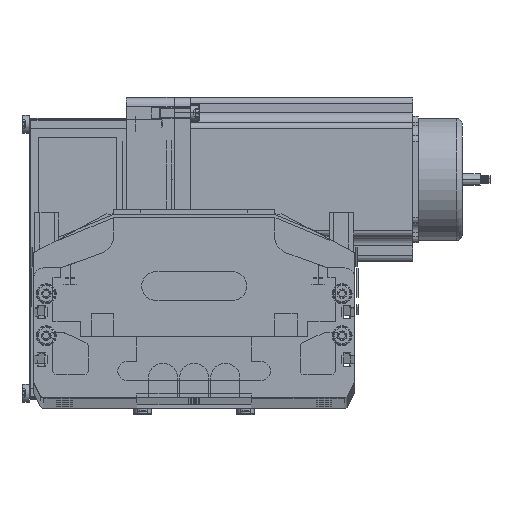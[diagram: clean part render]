
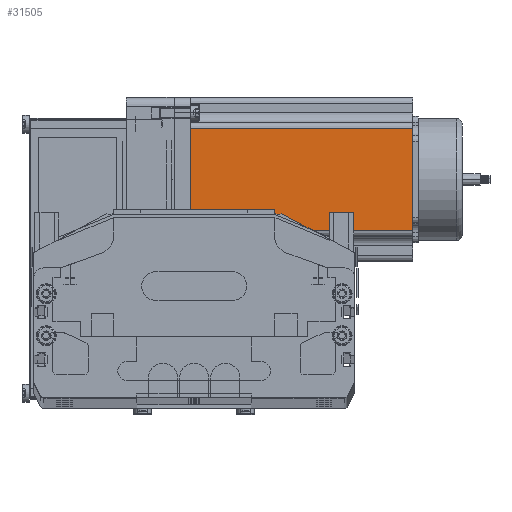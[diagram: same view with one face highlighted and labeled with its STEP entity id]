
A CAD part, top view. The second image highlights one B-rep face of the part: STEP entity #31505.
In plain terms, the highlighted planar face has unit normal (0, 0, 1) as drawn and (0, -1, 0) by its records, which use the part's own axes.
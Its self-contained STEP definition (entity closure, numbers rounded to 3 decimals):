
#31498 = EDGE_CURVE ( 'NONE', #31511, #31706, #50403, .T. ) ;
#31499 = VERTEX_POINT ( 'NONE', #50632 ) ;
#31501 = VERTEX_POINT ( 'NONE', #50407 ) ;
#31505 = ADVANCED_FACE ( 'NONE', ( #50397 ), #50604, .F. ) ;
#31506 = ORIENTED_EDGE ( 'NONE', *, *, #31509, .T. ) ;
#31508 = ORIENTED_EDGE ( 'NONE', *, *, #31510, .T. ) ;
#31509 = EDGE_CURVE ( 'NONE', #31499, #31501, #50594, .T. ) ;
#31510 = EDGE_CURVE ( 'NONE', #31706, #31499, #50595, .T. ) ;
#31511 = VERTEX_POINT ( 'NONE', #50608 ) ;
#31514 = EDGE_CURVE ( 'NONE', #31511, #31501, #50589, .T. ) ;
#31518 = ORIENTED_EDGE ( 'NONE', *, *, #31514, .F. ) ;
#31706 = VERTEX_POINT ( 'NONE', #52051 ) ;
#31707 = EDGE_LOOP ( 'NONE', ( #31508, #31506, #31518, #31729 ) ) ;
#31729 = ORIENTED_EDGE ( 'NONE', *, *, #31498, .T. ) ;
#50397 = FACE_OUTER_BOUND ( 'NONE', #31707, .T. ) ;
#50398 = DIRECTION ( 'NONE',  ( 0., 0., -1. ) ) ;
#50399 = VECTOR ( 'NONE', #50398, 1000. ) ;
#50400 = CARTESIAN_POINT ( 'NONE',  ( 16.16, 0., 116.5 ) ) ;
#50403 = LINE ( 'NONE', #50400, #50399 ) ;
#50407 = CARTESIAN_POINT ( 'NONE',  ( 69.74, 0., 116.5 ) ) ;
#50502 = DIRECTION ( 'NONE',  ( 1., 0., 0. ) ) ;
#50503 = VECTOR ( 'NONE', #50502, 1000. ) ;
#50504 = CARTESIAN_POINT ( 'NONE',  ( 0., 0., 0. ) ) ;
#50586 = DIRECTION ( 'NONE',  ( 1., 0., 0. ) ) ;
#50587 = VECTOR ( 'NONE', #50586, 1000. ) ;
#50588 = CARTESIAN_POINT ( 'NONE',  ( 0., 0., 116.5 ) ) ;
#50589 = LINE ( 'NONE', #50588, #50587 ) ;
#50594 = LINE ( 'NONE', #50607, #50723 ) ;
#50595 = LINE ( 'NONE', #50504, #50503 ) ;
#50598 = DIRECTION ( 'NONE',  ( 0., 0., 1. ) ) ;
#50599 = DIRECTION ( 'NONE',  ( 0., 1., 0. ) ) ;
#50601 = CARTESIAN_POINT ( 'NONE',  ( 0., 0., 116.5 ) ) ;
#50602 = AXIS2_PLACEMENT_3D ( 'NONE', #50601, #50599, #50598 ) ;
#50604 = PLANE ( 'NONE',  #50602 ) ;
#50607 = CARTESIAN_POINT ( 'NONE',  ( 69.74, 0., 116.5 ) ) ;
#50608 = CARTESIAN_POINT ( 'NONE',  ( 16.16, 0., 116.5 ) ) ;
#50632 = CARTESIAN_POINT ( 'NONE',  ( 69.74, 0., 0. ) ) ;
#50722 = DIRECTION ( 'NONE',  ( 0., 0., 1. ) ) ;
#50723 = VECTOR ( 'NONE', #50722, 1000. ) ;
#52051 = CARTESIAN_POINT ( 'NONE',  ( 16.16, 0., 0. ) ) ;
